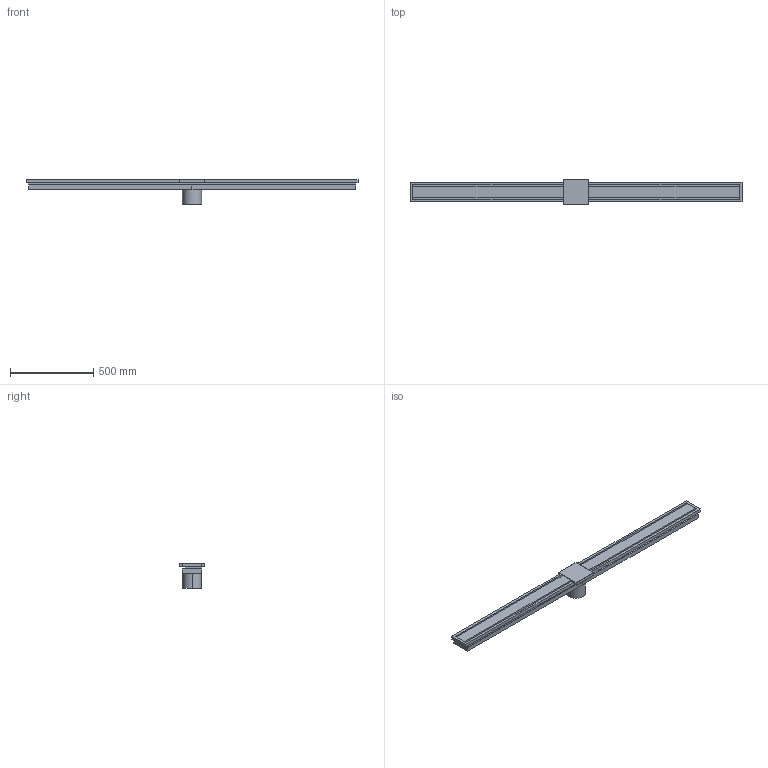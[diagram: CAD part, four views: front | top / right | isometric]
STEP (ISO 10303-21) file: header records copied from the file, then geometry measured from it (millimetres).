
FILE_DESCRIPTION(/* description */ (''),/* implementation_level */ '2;1');
FILE_NAME(/* name */ 'E:\Workspace\resitec\Packs\Kategorie\Entwässerungsrinne\STP\RS770.15.150Entwässerungsrinne mit Auslaufkasten151mm-Mitte.s.ipt.stp',/* time_stamp */ '2020-10-04T20:56:03+02:00',/* author */ ('ndmes'),/* organization */ (''),/* preprocessor_version */ 'ST-DEVELOPER v18.1',/* originating_system */ 'Autodesk Inventor 2021',/* authorisation */ '');
FILE_SCHEMA (('AUTOMOTIVE_DESIGN { 1 0 10303 214 3 1 1 }'));
Length unit declared in the file: millimetre
Products named in the file (1): RS770.15.150Entwässerungsrinne mit Auslaufkasten151mm-Mitte.s
Bounding box: 2000 x 151 x 150 mm (x, y, z)
Volume: 13979864.7 mm3; surface area: 1755007.5 mm2
Topology: 11 solids, 11 shells, 76 faces, 162 edges, 108 vertices
Faces by surface type: plane 74, cylinder 2
Entity records: 2045 total; most frequent: CARTESIAN_POINT 347, ORIENTED_EDGE 324, DIRECTION 320, EDGE_CURVE 162, LINE 158, VECTOR 158, VERTEX_POINT 108, AXIS2_PLACEMENT_3D 81
